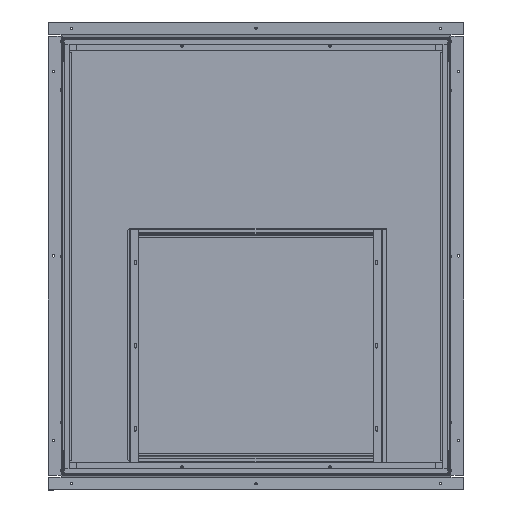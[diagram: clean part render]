
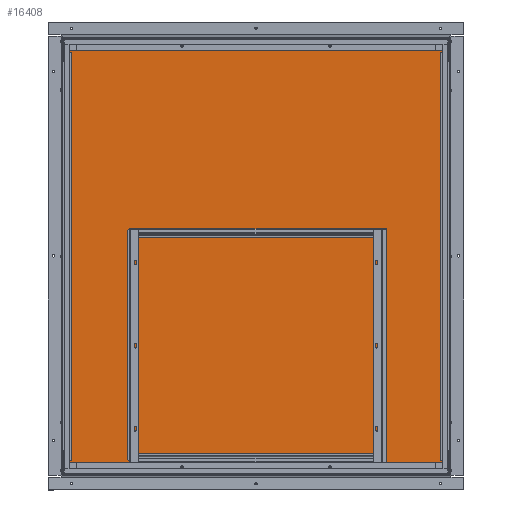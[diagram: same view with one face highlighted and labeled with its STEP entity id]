
A CAD part, top view. The second image highlights one B-rep face of the part: STEP entity #16408.
In plain terms, the highlighted planar face has unit normal (0, -0.012, 1) as drawn and (0, 0, -1) by its records, which use the part's own axes.
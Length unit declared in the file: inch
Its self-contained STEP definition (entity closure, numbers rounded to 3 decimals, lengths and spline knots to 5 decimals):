
#1110 = VERTEX_POINT ( 'NONE', #18647 ) ;
#2286 = FACE_BOUND ( 'NONE', #14385, .T. ) ;
#2314 = FACE_BOUND ( 'NONE', #16065, .T. ) ;
#2334 = FACE_BOUND ( 'NONE', #2442, .T. ) ;
#2349 = FACE_BOUND ( 'NONE', #7113, .T. ) ;
#2384 = FACE_OUTER_BOUND ( 'NONE', #7800, .T. ) ;
#2415 = VERTEX_POINT ( 'NONE', #7848 ) ;
#2442 = EDGE_LOOP ( 'NONE', ( #4389, #12222 ) ) ;
#3256 = CARTESIAN_POINT ( 'NONE',  ( -17.9329, 47.33889, -0.023 ) ) ;
#3262 = DIRECTION ( 'NONE',  ( -1., 0., 0. ) ) ;
#3308 = VERTEX_POINT ( 'NONE', #11909 ) ;
#3362 = AXIS2_PLACEMENT_3D ( 'NONE', #10436, #9382, #9649 ) ;
#3475 = ORIENTED_EDGE ( 'NONE', *, *, #15052, .T. ) ;
#3588 = VERTEX_POINT ( 'NONE', #10381 ) ;
#3680 = VERTEX_POINT ( 'NONE', #6732 ) ;
#3912 = DIRECTION ( 'NONE',  ( 1., 0., 0. ) ) ;
#3952 = DIRECTION ( 'NONE',  ( 0., 0., 1. ) ) ;
#3973 = CARTESIAN_POINT ( 'NONE',  ( 23.36398, 4.03991, -0.023 ) ) ;
#4160 = VERTEX_POINT ( 'NONE', #12352 ) ;
#4199 = VERTEX_POINT ( 'NONE', #9391 ) ;
#4389 = ORIENTED_EDGE ( 'NONE', *, *, #15021, .T. ) ;
#4517 = VERTEX_POINT ( 'NONE', #14109 ) ;
#4927 = CARTESIAN_POINT ( 'NONE',  ( -17.38602, 43.28991, -0.023 ) ) ;
#5740 = ORIENTED_EDGE ( 'NONE', *, *, #14497, .F. ) ;
#5837 = CIRCLE ( 'NONE', #11186, 0.125 ) ;
#5875 = CIRCLE ( 'NONE', #11808, 0.125 ) ;
#6165 = DIRECTION ( 'NONE',  ( 1., 0., 0. ) ) ;
#6187 = DIRECTION ( 'NONE',  ( 0., 0., 1. ) ) ;
#6201 = CIRCLE ( 'NONE', #13158, 0.125 ) ;
#6202 = CARTESIAN_POINT ( 'NONE',  ( -17.51102, 4.03991, -0.023 ) ) ;
#6343 = VERTEX_POINT ( 'NONE', #14150 ) ;
#6391 = ORIENTED_EDGE ( 'NONE', *, *, #14757, .T. ) ;
#6434 = CIRCLE ( 'NONE', #14597, 0.125 ) ;
#6688 = ORIENTED_EDGE ( 'NONE', *, *, #10177, .T. ) ;
#6732 = CARTESIAN_POINT ( 'NONE',  ( -17.63602, 43.28991, -0.023 ) ) ;
#6991 = LINE ( 'NONE', #3256, #7098 ) ;
#7098 = VECTOR ( 'NONE', #3262, 39.37008 ) ;
#7113 = EDGE_LOOP ( 'NONE', ( #15177, #6688 ) ) ;
#7273 = AXIS2_PLACEMENT_3D ( 'NONE', #6202, #6187, #6165 ) ;
#7497 = ORIENTED_EDGE ( 'NONE', *, *, #13001, .F. ) ;
#7800 = EDGE_LOOP ( 'NONE', ( #5740, #17217, #7497, #10201 ) ) ;
#7848 = CARTESIAN_POINT ( 'NONE',  ( -17.63602, 4.03991, -0.023 ) ) ;
#7908 = CARTESIAN_POINT ( 'NONE',  ( 23.23898, 43.28991, -0.023 ) ) ;
#8059 = CARTESIAN_POINT ( 'NONE',  ( -17.9329, -0.00906, -0.023 ) ) ;
#8460 = DIRECTION ( 'NONE',  ( 1., 0., 0. ) ) ;
#8576 = LINE ( 'NONE', #19369, #8637 ) ;
#8637 = VECTOR ( 'NONE', #19445, 39.37008 ) ;
#9305 = DIRECTION ( 'NONE',  ( 1., 0., 0. ) ) ;
#9323 = DIRECTION ( 'NONE',  ( 0., 0., 1. ) ) ;
#9327 = CARTESIAN_POINT ( 'NONE',  ( 23.36398, 43.28991, -0.023 ) ) ;
#9345 = PLANE ( 'NONE',  #3362 ) ;
#9382 = DIRECTION ( 'NONE',  ( 0., 0., 1. ) ) ;
#9391 = CARTESIAN_POINT ( 'NONE',  ( -17.9329, -0.00906, -0.023 ) ) ;
#9433 = VERTEX_POINT ( 'NONE', #20017 ) ;
#9649 = DIRECTION ( 'NONE',  ( 1., 0., 0. ) ) ;
#9917 = EDGE_CURVE ( 'NONE', #3680, #17832, #18808, .T. ) ;
#10115 = AXIS2_PLACEMENT_3D ( 'NONE', #9327, #9323, #9305 ) ;
#10177 = EDGE_CURVE ( 'NONE', #13025, #3588, #17993, .T. ) ;
#10201 = ORIENTED_EDGE ( 'NONE', *, *, #12243, .F. ) ;
#10322 = ORIENTED_EDGE ( 'NONE', *, *, #10670, .T. ) ;
#10381 = CARTESIAN_POINT ( 'NONE',  ( 23.48898, 43.28991, -0.023 ) ) ;
#10436 = CARTESIAN_POINT ( 'NONE',  ( -17.9329, -0.00906, -0.023 ) ) ;
#10442 = EDGE_CURVE ( 'NONE', #2415, #4517, #17208, .T. ) ;
#10481 = VECTOR ( 'NONE', #8460, 39.37008 ) ;
#10580 = LINE ( 'NONE', #8059, #10481 ) ;
#10670 = EDGE_CURVE ( 'NONE', #6343, #1110, #16472, .T. ) ;
#11186 = AXIS2_PLACEMENT_3D ( 'NONE', #15169, #15128, #15121 ) ;
#11808 = AXIS2_PLACEMENT_3D ( 'NONE', #15507, #15479, #15436 ) ;
#11909 = CARTESIAN_POINT ( 'NONE',  ( 23.78585, 47.33889, -0.023 ) ) ;
#11922 = AXIS2_PLACEMENT_3D ( 'NONE', #13995, #13993, #13955 ) ;
#12143 = LINE ( 'NONE', #13881, #12220 ) ;
#12220 = VECTOR ( 'NONE', #13854, 39.37008 ) ;
#12222 = ORIENTED_EDGE ( 'NONE', *, *, #10442, .T. ) ;
#12243 = EDGE_CURVE ( 'NONE', #4160, #4199, #12143, .T. ) ;
#12282 = AXIS2_PLACEMENT_3D ( 'NONE', #3973, #3952, #3912 ) ;
#12352 = CARTESIAN_POINT ( 'NONE',  ( -17.9329, 47.33889, -0.023 ) ) ;
#13001 = EDGE_CURVE ( 'NONE', #4199, #9433, #10580, .T. ) ;
#13025 = VERTEX_POINT ( 'NONE', #7908 ) ;
#13158 = AXIS2_PLACEMENT_3D ( 'NONE', #16854, #16848, #16808 ) ;
#13803 = EDGE_CURVE ( 'NONE', #9433, #3308, #8576, .T. ) ;
#13854 = DIRECTION ( 'NONE',  ( 0., -1., 0. ) ) ;
#13881 = CARTESIAN_POINT ( 'NONE',  ( -17.9329, -0.00906, -0.023 ) ) ;
#13955 = DIRECTION ( 'NONE',  ( 1., 0., 0. ) ) ;
#13993 = DIRECTION ( 'NONE',  ( 0., 0., 1. ) ) ;
#13995 = CARTESIAN_POINT ( 'NONE',  ( -17.51102, 43.28991, -0.023 ) ) ;
#14109 = CARTESIAN_POINT ( 'NONE',  ( -17.38602, 4.03991, -0.023 ) ) ;
#14150 = CARTESIAN_POINT ( 'NONE',  ( 23.23898, 4.03991, -0.023 ) ) ;
#14385 = EDGE_LOOP ( 'NONE', ( #3475, #10322 ) ) ;
#14497 = EDGE_CURVE ( 'NONE', #3308, #4160, #6991, .T. ) ;
#14597 = AXIS2_PLACEMENT_3D ( 'NONE', #17860, #17839, #17821 ) ;
#14757 = EDGE_CURVE ( 'NONE', #17832, #3680, #6434, .T. ) ;
#14887 = EDGE_CURVE ( 'NONE', #3588, #13025, #6201, .T. ) ;
#15021 = EDGE_CURVE ( 'NONE', #4517, #2415, #5875, .T. ) ;
#15052 = EDGE_CURVE ( 'NONE', #1110, #6343, #5837, .T. ) ;
#15121 = DIRECTION ( 'NONE',  ( 1., 0., 0. ) ) ;
#15128 = DIRECTION ( 'NONE',  ( 0., 0., 1. ) ) ;
#15169 = CARTESIAN_POINT ( 'NONE',  ( 23.36398, 4.03991, -0.023 ) ) ;
#15177 = ORIENTED_EDGE ( 'NONE', *, *, #14887, .T. ) ;
#15436 = DIRECTION ( 'NONE',  ( 1., 0., 0. ) ) ;
#15479 = DIRECTION ( 'NONE',  ( 0., 0., 1. ) ) ;
#15507 = CARTESIAN_POINT ( 'NONE',  ( -17.51102, 4.03991, -0.023 ) ) ;
#16065 = EDGE_LOOP ( 'NONE', ( #6391, #17302 ) ) ;
#16408 = ADVANCED_FACE ( 'NONE', ( #2384, #2314, #2349, #2334, #2286 ), #9345, .F. ) ;
#16472 = CIRCLE ( 'NONE', #12282, 0.125 ) ;
#16808 = DIRECTION ( 'NONE',  ( 1., 0., 0. ) ) ;
#16848 = DIRECTION ( 'NONE',  ( 0., 0., 1. ) ) ;
#16854 = CARTESIAN_POINT ( 'NONE',  ( 23.36398, 43.28991, -0.023 ) ) ;
#17208 = CIRCLE ( 'NONE', #7273, 0.125 ) ;
#17217 = ORIENTED_EDGE ( 'NONE', *, *, #13803, .F. ) ;
#17302 = ORIENTED_EDGE ( 'NONE', *, *, #9917, .T. ) ;
#17821 = DIRECTION ( 'NONE',  ( 1., 0., 0. ) ) ;
#17832 = VERTEX_POINT ( 'NONE', #4927 ) ;
#17839 = DIRECTION ( 'NONE',  ( 0., 0., 1. ) ) ;
#17860 = CARTESIAN_POINT ( 'NONE',  ( -17.51102, 43.28991, -0.023 ) ) ;
#17993 = CIRCLE ( 'NONE', #10115, 0.125 ) ;
#18647 = CARTESIAN_POINT ( 'NONE',  ( 23.48898, 4.03991, -0.023 ) ) ;
#18808 = CIRCLE ( 'NONE', #11922, 0.125 ) ;
#19369 = CARTESIAN_POINT ( 'NONE',  ( 23.78585, -0.00906, -0.023 ) ) ;
#19445 = DIRECTION ( 'NONE',  ( 0., 1., 0. ) ) ;
#20017 = CARTESIAN_POINT ( 'NONE',  ( 23.78585, -0.00906, -0.023 ) ) ;
